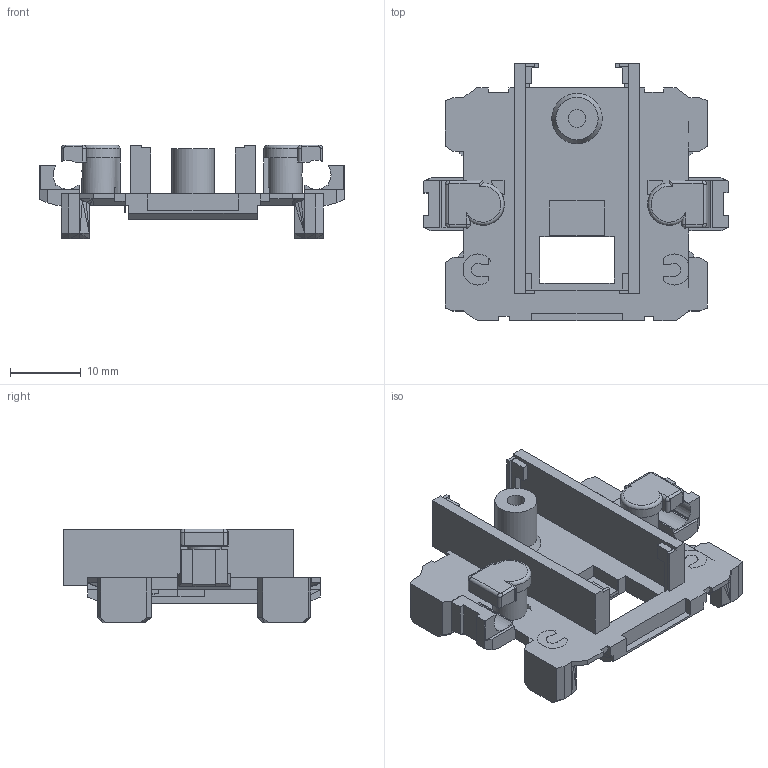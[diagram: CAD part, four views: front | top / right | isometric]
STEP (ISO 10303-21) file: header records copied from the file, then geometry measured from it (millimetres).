
FILE_DESCRIPTION(('Open CASCADE Model'),'2;1');
FILE_NAME('Open CASCADE Shape Model','2026-10-05T13:43:54',('Author'),( 'Open CASCADE'),'Open CASCADE STEP processor 7.9','Open CASCADE 7.9' ,'Unknown');
FILE_SCHEMA(('AUTOMOTIVE_DESIGN { 1 0 10303 214 1 1 1 1 }'));
Length unit declared in the file: millimetre
Products named in the file (1): Open CASCADE STEP translator 7.9 1
Bounding box: 43.15 x 36.41 x 13.3 mm (x, y, z)
Volume: 4298.6 mm3; surface area: 5231.6 mm2
Topology: 1 solids, 1 shells, 729 faces, 2009 edges, 1284 vertices
Faces by surface type: plane 667, cylinder 53, revolution 6, torus 2, cone 1
Full cylindrical faces by diameter (mm): 2.5 x1, 4.8 x2, 6 x1
Entity records: 50060 total; most frequent: CARTESIAN_POINT 10006, DIRECTION 7301, LINE 5513, VECTOR 5513, ORIENTED_EDGE 4018, PCURVE 4018, DEFINITIONAL_REPRESENTATION 4018, EDGE_CURVE 2009
